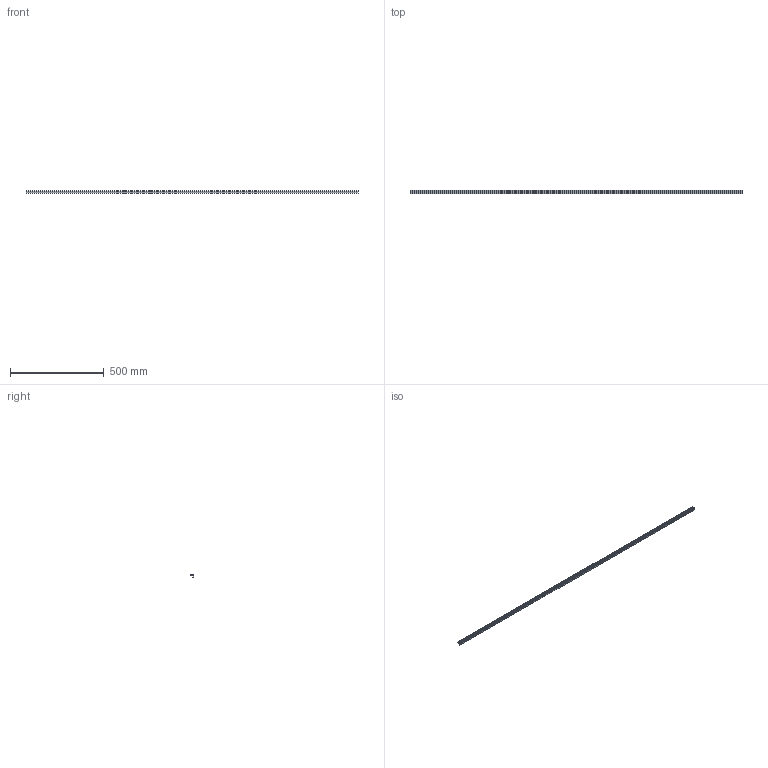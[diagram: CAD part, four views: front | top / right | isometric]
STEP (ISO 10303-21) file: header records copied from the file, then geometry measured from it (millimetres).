
FILE_DESCRIPTION( ( 'STEP AP214' ), '1' );
FILE_NAME( 'C:/Users/KOSH/Desktop/Same as task/Sliding folding/9288028.stp', '2021-07-01T13:41:40', ( '' ), ( '' ), ' ', 'PARTsolutions', ' ' );
FILE_SCHEMA( ( 'AUTOMOTIVE_DESIGN { 1 0 10303 214 1 1 1 1 }' ) );
Length unit declared in the file: millimetre
Products named in the file (1): _9288028
Bounding box: 1766 x 16 x 13.1 mm (x, y, z)
Volume: 85119.1 mm3; surface area: 119219.1 mm2
Topology: 1 solids, 1 shells, 38 faces, 108 edges, 72 vertices
Faces by surface type: plane 34, cylinder 4
Entity records: 1540 total; most frequent: CARTESIAN_POINT 219, ORIENTED_EDGE 216, DIRECTION 194, EDGE_CURVE 108, LINE 100, VECTOR 100, VERTEX_POINT 72, AXIS2_PLACEMENT_3D 47
